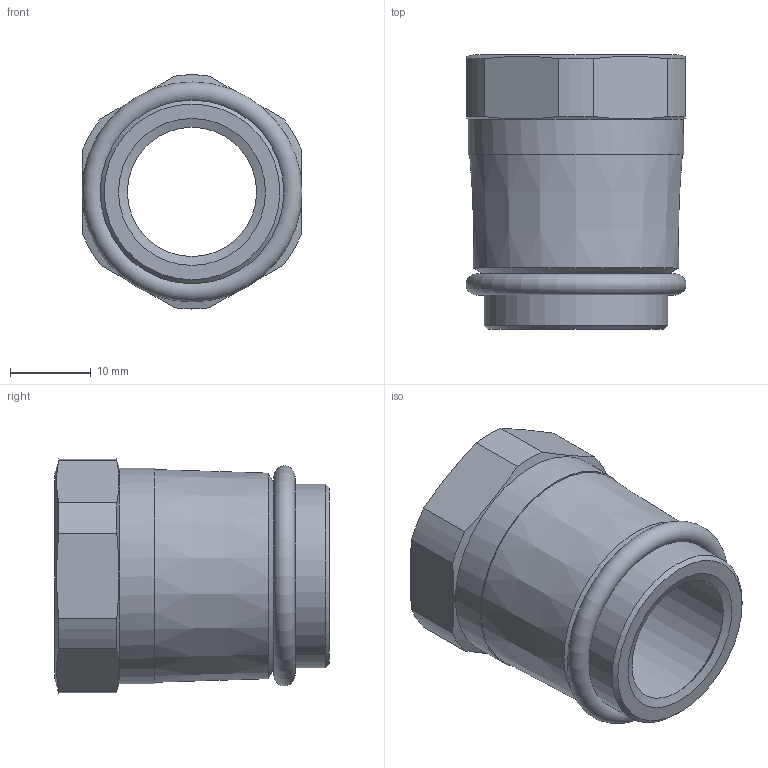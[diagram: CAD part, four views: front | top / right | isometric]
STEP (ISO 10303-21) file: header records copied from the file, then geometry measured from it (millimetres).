
FILE_DESCRIPTION( ( 'STEP AP203' ), '1' );
FILE_NAME( 'p:/temp/worker_191/temp/exporttempdir_4720_297_QInLc/format_0/E43313.stp', '2021-01-22T09:20:52', ( 'License CC BY-ND 4.0' ), ( 'CADENAS' ), ' ', 'PARTsolutions', ' ' );
FILE_SCHEMA( ( 'CONFIG_CONTROL_DESIGN' ) );
Length unit declared in the file: millimetre
Products named in the file (1): _E43313
Bounding box: 27.23 x 34 x 28.98 mm (x, y, z)
Volume: 8655.9 mm3; surface area: 5750.9 mm2
Topology: 1 solids, 1 shells, 28 faces, 68 edges, 43 vertices
Faces by surface type: cylinder 10, plane 9, cone 8, torus 1
Full cylindrical faces by diameter (mm): 19 x1, 22.75 x2, 26.67 x1
Entity records: 810 total; most frequent: CARTESIAN_POINT 180, DIRECTION 124, ORIENTED_EDGE 102, AXIS2_PLACEMENT_3D 56, EDGE_CURVE 51, EDGE_LOOP 44, VERTEX_POINT 40, FACE_OUTER_BOUND 33
